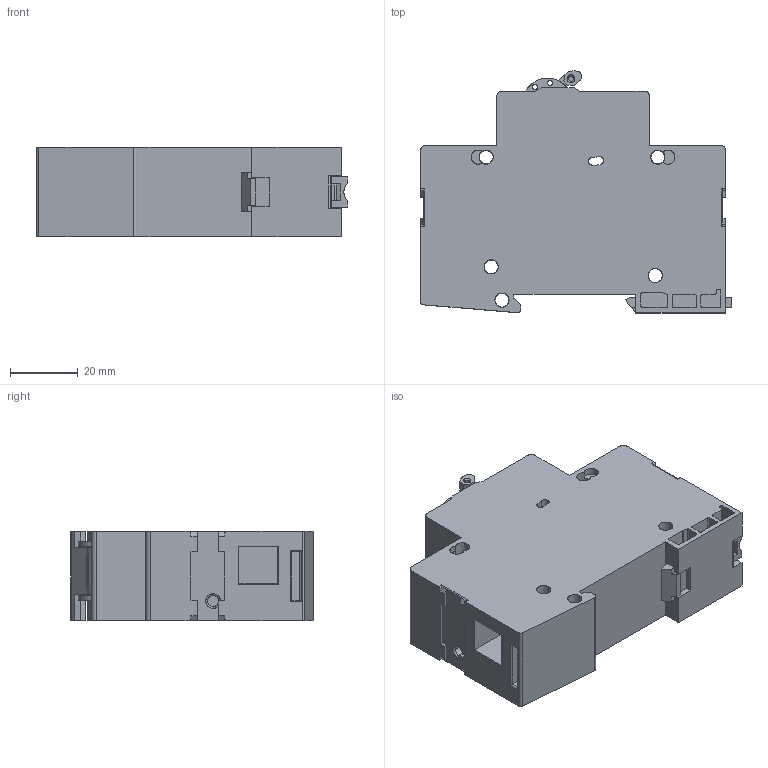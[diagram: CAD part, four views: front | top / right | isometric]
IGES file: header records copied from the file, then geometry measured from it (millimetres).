
Start section: SolidWorks IGES file using analytic representation for surfaces
Global section: file name: U:\14_RD\05_Technical_office\04_Office\Hrdinova\3D modely - IGES\Minia\AST-1.IGS; native system: SolidWorks 2011; preprocessor: SolidWorks 2011; author: adhrja3; date: 170615.071112; units: millimetre
Bounding box: 91.7 x 71.47 x 26.5 mm (x, y, z)
Surface area: 25366.4 mm2 (no closed solid volume)
Topology: 0 solids, 0 shells, 463 faces, 5135 edges, 5135 vertices
Faces by surface type: bspline 291, revolution 172
